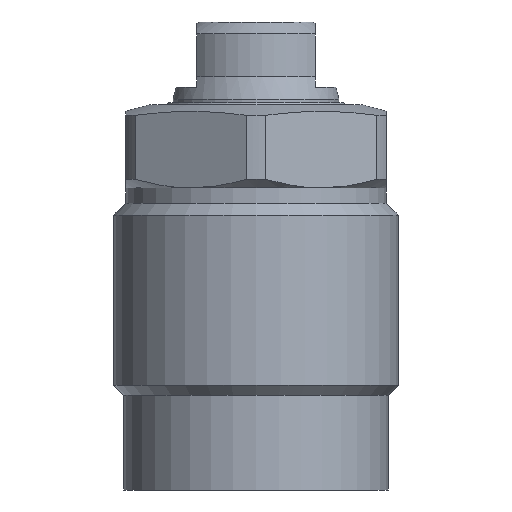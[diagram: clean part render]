
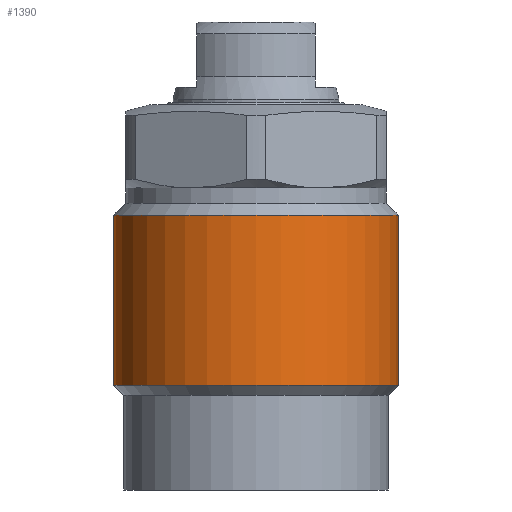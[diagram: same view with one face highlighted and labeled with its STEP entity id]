
A CAD part, front view. The second image highlights one B-rep face of the part: STEP entity #1390.
In plain terms, the highlighted cylindrical face has radius 12 mm (diameter 24 mm), a partial arc.
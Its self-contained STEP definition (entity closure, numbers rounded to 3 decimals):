
#1327=CARTESIAN_POINT('',(-12.0,0.0,-23.65));
#1328=VERTEX_POINT('',#1327);
#1336=CARTESIAN_POINT('',(12.0,0.0,-23.65));
#1337=VERTEX_POINT('',#1336);
#1344=CARTESIAN_POINT('',(0.0,0.0,-23.65));
#1345=DIRECTION('',(0.0,0.0,1.0));
#1346=DIRECTION('',(1.0,0.0,-0.0));
#1347=AXIS2_PLACEMENT_3D('',#1344,#1345,#1346);
#1348=CIRCLE('',#1347,12.0);
#1349=EDGE_CURVE('no 2142',#1328,#1337,#1348,.T.);
#1359=CARTESIAN_POINT('',(-12.,0.0,-9.3));
#1360=VERTEX_POINT('',#1359);
#1361=CARTESIAN_POINT('',(-12.,0.0,-23.65));
#1362=DIRECTION('',(0.,-0.0,1.0));
#1363=VECTOR('',#1362,1.0);
#1364=LINE('',#1361,#1363);
#1365=EDGE_CURVE('no 2152',#1328,#1360,#1364,.T.);
#1366=ORIENTED_EDGE('',*,*,#1365,.F.);
#1367=ORIENTED_EDGE('',*,*,#1349,.T.);
#1368=CARTESIAN_POINT('',(12.,0.0,-9.3));
#1369=VERTEX_POINT('',#1368);
#1370=CARTESIAN_POINT('',(12.,0.0,-23.65));
#1371=DIRECTION('',(0.,0.0,1.0));
#1372=VECTOR('',#1371,1.0);
#1373=LINE('',#1370,#1372);
#1374=EDGE_CURVE('no 2160',#1337,#1369,#1373,.T.);
#1375=ORIENTED_EDGE('',*,*,#1374,.T.);
#1376=CARTESIAN_POINT('',(0.0,0.0,-9.3));
#1377=DIRECTION('',(0.0,0.0,1.0));
#1378=DIRECTION('',(1.0,0.0,-0.0));
#1379=AXIS2_PLACEMENT_3D('',#1376,#1377,#1378);
#1380=CIRCLE('',#1379,12.);
#1381=EDGE_CURVE('no 2164',#1360,#1369,#1380,.T.);
#1382=ORIENTED_EDGE('',*,*,#1381,.F.);
#1383=EDGE_LOOP('',(#1366,#1367,#1375,#1382));
#1384=FACE_OUTER_BOUND('',#1383,.T.);
#1385=CARTESIAN_POINT('',(0.0,0.0,4.2));
#1386=DIRECTION('',(0.0,0.0,1.0));
#1387=DIRECTION('',(0.0,1.0,-0.0));
#1388=AXIS2_PLACEMENT_3D('',#1385,#1386,#1387);
#1389=CYLINDRICAL_SURFACE('',#1388,12.);
#1390=ADVANCED_FACE('no 2145',(#1384),#1389,.T.);
